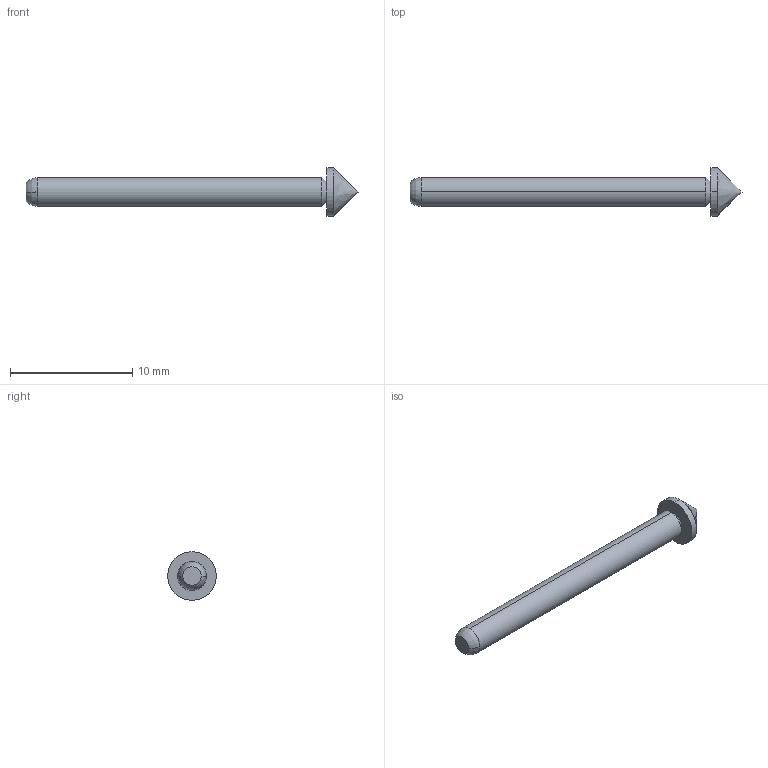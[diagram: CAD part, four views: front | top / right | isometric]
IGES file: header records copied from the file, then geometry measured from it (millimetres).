
Start section: SolidWorks IGES file using analytic representation for surfaces
Global section: file name: Z:\probe solid model mockups\Solidworks models\IGES Files\EPA-4 IGES files\EPA-4E Full.IGS; native system: SolidWorks 2006 by SolidWorks Corporation; preprocessor: SolidWorks 2006 by SolidWorks Corporation; author: tsakatani; date: 080103.104308; units: inch
Bounding box: 27.18 x 3.96 x 3.96 mm (x, y, z)
Surface area: 220.1 mm2 (no closed solid volume)
Topology: 0 solids, 0 shells, 12 faces, 108 edges, 106 vertices
Faces by surface type: revolution 10, bspline 2
